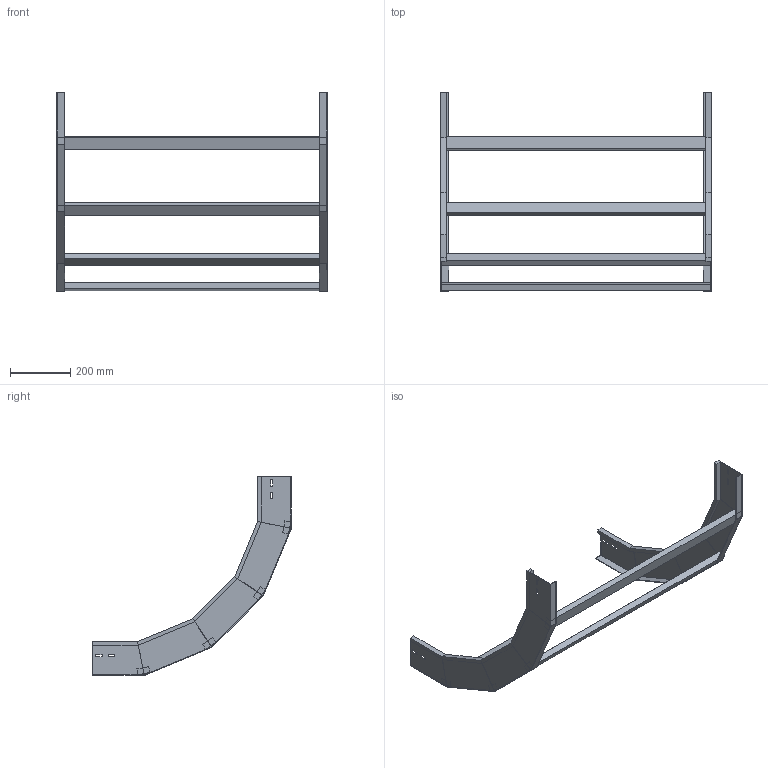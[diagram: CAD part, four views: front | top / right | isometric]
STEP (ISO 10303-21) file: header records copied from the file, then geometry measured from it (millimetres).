
FILE_DESCRIPTION (( 'STEP AP214' ), '1' );
FILE_NAME ('A2X30B5J900XX.step', '2025-03-20T10:22:23', ( '' ), ( '' ), 'SwSTEP 2.0', 'SolidWorks 2023', '' );
FILE_SCHEMA (( 'AUTOMOTIVE_DESIGN' ));
Length unit declared in the file: millimetre
Products named in the file (3): LONGH.SALITA_90°_H112.5_R500; TRAVERSINO_900; A2X30B5J900XX
Assembly tree (6 placements, depth 2):
  A2X30B5J900XX
    LONGH.SALITA_90°_H112.5_R500  x2
    TRAVERSINO_900  x4
Bounding box: 900 x 661.62 x 661.62 mm (x, y, z)
Volume: 3797708.4 mm3; surface area: 1056191.7 mm2
Topology: 6 solids, 6 shells, 140 faces, 320 edges, 192 vertices
Faces by surface type: plane 140
Entity records: 1872 total; most frequent: CARTESIAN_POINT 309, ORIENTED_EDGE 296, DIRECTION 294, LINE 148, EDGE_CURVE 148, VECTOR 148, VERTEX_POINT 88, AXIS2_PLACEMENT_3D 73
